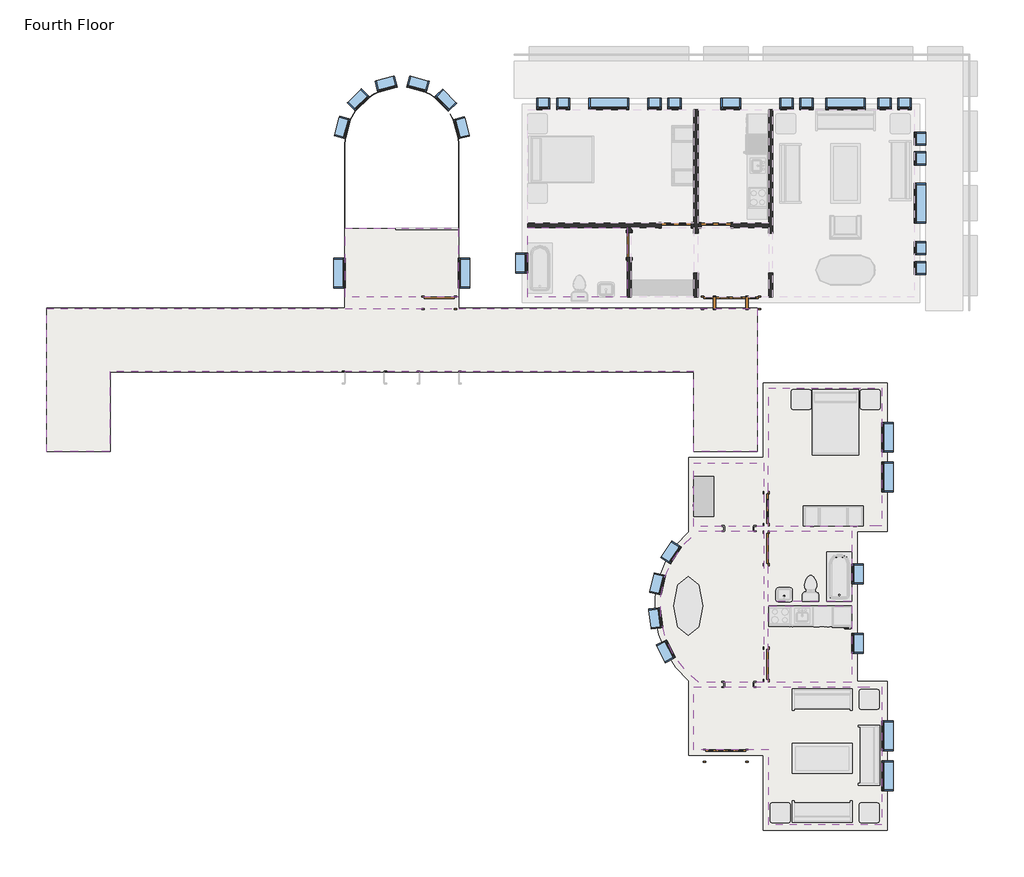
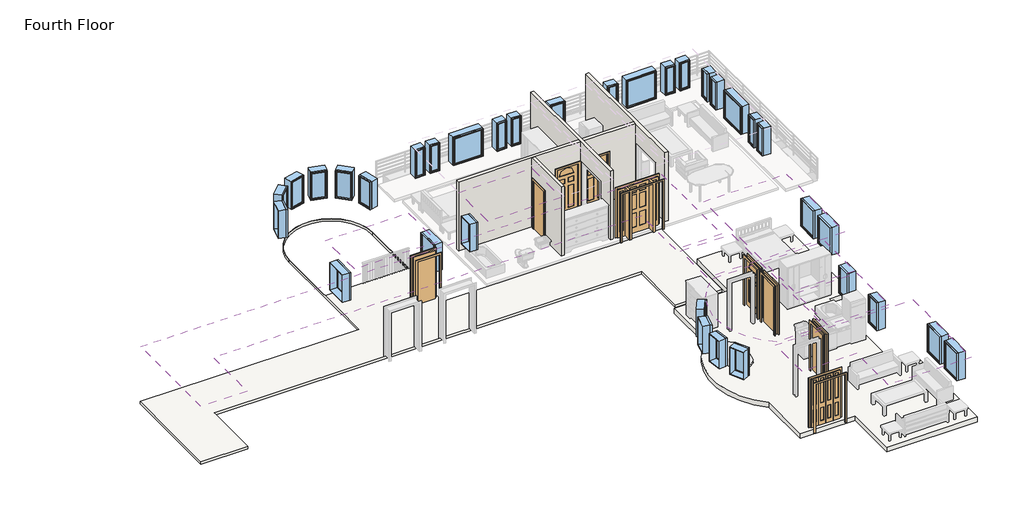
# One storey, part 1 of 2: 35 windows, 9 coverings, 9 doors, 5 walls, 2 slabs.
"""IFC4 building model written with IfcOpenShell, lengths in millimetres."""

from ifc_helpers import new_model, si_unit, point, frame, frame_2d, origin, place, context, project, spatial, polyline, circle_curve, trimmed, segment, composite_curve, outline, extrude, faceted_brep, transform, mapped, element, save
from components import m_bifold_4_panel_1220_x_2134mm_1a506c01, m_single_decorative_2_0915_x_2134mm_cc9a65e4, m_single_flush_0915_x_2134mm_ab9b6334, m_single_flush_0915_x_2134mm_08e0827a, door_829da954, door_2e3b4da2, door_4d6c7550, door_632be17d, door_dba5aa2e, window_da97879f, window_d61ef850, window_60baf983, window_15c49d37, window_6eb97611, m_fixed_0610_x_1220mm_2b91b687, m_fixed_0610_x_1220mm_9ad90eeb, m_fixed_0915_x_1220mm_ca90dcf7

model = new_model("IFC4")

# Units and contexts
model_context = context("Model", 3, world=origin())
ifc_project = project(units=[si_unit("LENGTHUNIT", "METRE", prefix="MILLI")], contexts=[model_context])

# Site, building, storey
site = spatial("IfcSite", under=ifc_project)
building = spatial("IfcBuilding", under=site)
storey = spatial("IfcBuildingStorey", under=building, Name="Fourth Floor", Elevation=9144.0)

# Coverings
placement = place(None, origin())
element("IfcCovering", 1, ObjectType="GWB on Mtl. Stud", at=placement, inside=storey, context=model_context, shape_type="SweptSolid", body=[
    extrude(outline(polyline([(-8169.2464563, 6660.0441867), (-8169.2464563, 4526.4441867), (-11217.2464563, 4526.4441867), (-11217.2464563, 6660.0441867), (-8169.2464563, 6660.0441867)])), frame((0.0, 0.0, 11734.8), z_axis=(0.0, 0.0, 1.0), x_axis=(1.0, 0.0, 0.0)), (0.0, 0.0, 1.0), 107.95),
])
element("IfcCovering", 2, ObjectType="GWB on Mtl. Stud", at=placement, inside=storey, context=model_context, shape_type="SweptSolid", body=[
    extrude(outline(polyline([(-13333.3839563, 4526.4441867), (-16790.9589563, 4526.4441867), (-16790.9589563, 6636.2316867), (-13333.3839563, 6636.2316867), (-13333.3839563, 4526.4441867)])), frame((0.0, 0.0, 11582.4), z_axis=(0.0, 0.0, 1.0), x_axis=(1.0, 0.0, 0.0)), (0.0, 0.0, 1.0), 107.95),
])
element("IfcCovering", 3, ObjectType="GWB on Mtl. Stud", at=placement, inside=storey, context=model_context, shape_type="SweptSolid", body=[
    extrude(outline(polyline([(-6122.9589563, -197.9558133), (-6122.9589563, 2240.4441867), (-24001.3839563, 2240.4441867), (-24001.3839563, -197.9558133), (-25934.9589563, -197.9558133), (-25934.9589563, 4174.0191867), (-4189.3839563, 4174.0191867), (-4189.3839563, -197.9558133), (-6122.9589563, -197.9558133)])), frame((0.0, 0.0, 11582.4), z_axis=(0.0, 0.0, 1.0), x_axis=(1.0, 0.0, 0.0)), (0.0, 0.0, 1.0), 107.95),
])
element("IfcCovering", 4, ObjectType="Plain", at=placement, inside=storey, context=model_context, shape_type="SweptSolid", body=[
    extrude(outline(polyline([(-3836.9589563, -374.1683133), (-3836.9589563, 1735.6191867), (-379.3839563, 1735.6191867), (-379.3839563, -2483.9558133), (-1117.5714563, -2483.9558133), (-1117.5714563, -2492.4183133), (-3845.4214563, -2492.4183133), (-3845.4214563, -374.1683133), (-3836.9589563, -374.1683133)])), frame((0.0, 0.0, 11735.0), z_axis=(0.0, 0.0, 1.0), x_axis=(1.0, 0.0, 0.0)), (0.0, 0.0, 1.0), 57.0),
])
element("IfcCovering", 5, ObjectType="Plain", at=placement, inside=storey, context=model_context, shape_type="SweptSolid", body=[
    extrude(outline(polyline([(-3845.4214563, -2627.9183133), (-1293.7839563, -2627.9183133), (-1293.7839563, -4793.7683133), (-3845.4214563, -4793.7683133), (-3845.4214563, -2627.9183133)])), frame((0.0, 0.0, 11735.0), z_axis=(0.0, 0.0, 1.0), x_axis=(1.0, 0.0, 0.0)), (0.0, 0.0, 1.0), 57.0),
])
element("IfcCovering", 6, ObjectType="Plain", at=placement, inside=storey, context=model_context, shape_type="SweptSolid", body=[
    extrude(outline(polyline([(-3845.4214563, -4929.2683133), (-1293.7839563, -4929.2683133), (-1293.7839563, -7264.4183133), (-3845.4214563, -7264.4183133), (-3845.4214563, -4929.2683133)])), frame((0.0, 0.0, 11735.0), z_axis=(0.0, 0.0, 1.0), x_axis=(1.0, 0.0, 0.0)), (0.0, 0.0, 1.0), 57.0),
])
element("IfcCovering", 7, ObjectType="Plain", at=placement, inside=storey, context=model_context, shape_type="SweptSolid", body=[
    extrude(outline(polyline([(-6122.9589563, -7399.9183133), (-1117.5714563, -7399.9183133), (-1117.5714563, -7408.3808133), (-379.3839563, -7408.3808133), (-379.3839563, -11627.9558133), (-3836.9589563, -11627.9558133), (-3836.9589563, -9341.9558133), (-6122.9589563, -9341.9558133), (-6122.9589563, -7399.9183133)])), frame((0.0, 0.0, 11735.0), z_axis=(0.0, 0.0, 1.0), x_axis=(1.0, 0.0, 0.0)), (0.0, 0.0, 1.0), 57.0),
])
element("IfcCovering", 8, ObjectType="Plain", at=placement, inside=storey, context=model_context, shape_type="SweptSolid", body=[
    extrude(outline(composite_curve([segment(trimmed(circle_curve(frame_2d((-4283.1089573, -4946.1683133)), 2871.7875), [point((-5978.0662968, -7264.4183133))], [point((-5978.0662968, -2627.9183133))], False, "CARTESIAN"), True, "CONTINUOUS"), segment(polyline([(-5978.0662968, -2627.9183133), (-3980.9214563, -2627.9183133), (-3980.9214563, -7264.4183133), (-5978.0662968, -7264.4183133)]), True, "CONTINUOUS")], self_intersect=False)), frame((0.0, 0.0, 11735.0), z_axis=(0.0, 0.0, 1.0), x_axis=(1.0, 0.0, 0.0)), (0.0, 0.0, 1.0), 57.0),
])
element("IfcCovering", 9, ObjectType="Plain", at=placement, inside=storey, context=model_context, shape_type="SweptSolid", body=[
    extrude(outline(polyline([(-6122.9589563, -2492.4183133), (-6122.9589563, -550.3808133), (-3980.9214563, -550.3808133), (-3980.9214563, -2492.4183133), (-6122.9589563, -2492.4183133)])), frame((0.0, 0.0, 11735.0), z_axis=(0.0, 0.0, 1.0), x_axis=(1.0, 0.0, 0.0)), (0.0, 0.0, 1.0), 57.0),
])

# Doors
m_bifold_4_panel_1220_x_2134mm_shape = m_bifold_4_panel_1220_x_2134mm_1a506c01(model_context)
element("IfcDoor", 10, ObjectType="M_Bifold-4 Panel : 1220 x 2134mm", at=placement, inside=storey, context=model_context, shape_type="MappedRepresentation", body=[
    mapped(m_bifold_4_panel_1220_x_2134mm_shape, transform((-5156.1714563, -9518.1683133, 9144.0), x_axis=(1.0, 0.0, 0.0), y_axis=(0.0, 1.0, 0.0), z_axis=(0.0, 0.0, 1.0))),
])
m_single_decorative_2_0915_x_2134mm_shape = m_single_decorative_2_0915_x_2134mm_cc9a65e4(model_context)
element("IfcDoor", 11, ObjectType="M_Single-Decorative 2 : 0915 x 2134mm", at=placement, inside=storey, context=model_context, shape_type="MappedRepresentation", body=[
    mapped(m_single_decorative_2_0915_x_2134mm_shape, transform((-3913.1714563, -1953.9183133, 9144.0), x_axis=(0.0, -1.0, 0.0), y_axis=(1.0, 0.0, 0.0), z_axis=(0.0, 0.0, 1.0))),
])
m_single_flush_0915_x_2134mm_shape = m_single_flush_0915_x_2134mm_ab9b6334(model_context)
element("IfcDoor", 12, ObjectType="M_Single-Flush : 0915 x 2134mm", at=placement, inside=storey, context=model_context, shape_type="MappedRepresentation", body=[
    mapped(m_single_flush_0915_x_2134mm_shape, transform((-3913.1714563, -3173.9183133, 9144.0), x_axis=(0.0, 1.0, 0.0), y_axis=(-1.0, 0.0, 0.0), z_axis=(0.0, 0.0, 1.0))),
])
m_single_flush_0915_x_2134mm_2_shape = m_single_flush_0915_x_2134mm_08e0827a(model_context)
element("IfcDoor", 13, ObjectType="M_Single-Flush : 0915 x 2134mm", at=placement, inside=storey, context=model_context, shape_type="MappedRepresentation", body=[
    mapped(m_single_flush_0915_x_2134mm_2_shape, transform((-3913.1714563, -6722.1683133, 9144.0), x_axis=(0.0, -1.0, 0.0), y_axis=(1.0, 0.0, 0.0), z_axis=(0.0, 0.0, 1.0))),
])
door_shape = door_829da954(model_context)
element("IfcDoor", 14, ObjectType="Single-Decorative 2 : 36\" x 84\"", at=placement, inside=storey, context=model_context, shape_type="MappedRepresentation", body=[
    mapped(door_shape, transform((-5449.8589563, 6723.5441867, 9144.0), x_axis=(-1.0, 0.0, 0.0), y_axis=(0.0, -1.0, 0.0), z_axis=(0.0, 0.0, 1.0))),
])
door_2_shape = door_2e3b4da2(model_context)
element("IfcDoor", 15, ObjectType="Single-Decorative 2 : 36\" x 84\"", at=placement, inside=storey, context=model_context, shape_type="MappedRepresentation", body=[
    mapped(door_2_shape, transform((-6669.0589563, 6723.5441867, 9144.0), x_axis=(1.0, 0.0, 0.0), y_axis=(0.0, 1.0, 0.0), z_axis=(0.0, 0.0, 1.0))),
])
door_3_shape = door_4d6c7550(model_context)
element("IfcDoor", 16, ObjectType="Single-Flush : 30\" x 84\"", at=placement, inside=storey, context=model_context, shape_type="MappedRepresentation", body=[
    mapped(door_3_shape, transform((-8105.7464563, 6113.9441867, 9144.0), x_axis=(0.0, 1.0, 0.0), y_axis=(-1.0, 0.0, 0.0), z_axis=(0.0, 0.0, 1.0))),
])
door_4_shape = door_632be17d(model_context)
element("IfcDoor", 17, ObjectType="Single-Flush : 36\" x 84\"", at=placement, inside=storey, context=model_context, shape_type="MappedRepresentation", body=[
    mapped(door_4_shape, transform((-13919.1714563, 4350.2316867, 9144.0), x_axis=(1.0, 0.0, 0.0), y_axis=(0.0, 1.0, 0.0), z_axis=(0.0, 0.0, 1.0))),
])
door_5_shape = door_dba5aa2e(model_context)
element("IfcDoor", 18, ObjectType="Single-Raised Panel with Sidelights : 36\" x 84\"", at=placement, inside=storey, context=model_context, shape_type="MappedRepresentation", body=[
    mapped(door_5_shape, transform((-4992.6589563, 4350.2316867, 9144.0), x_axis=(-1.0, 0.0, 0.0), y_axis=(0.0, -1.0, 0.0), z_axis=(0.0, 0.0, 1.0))),
])

# Slabs
element("IfcSlab", 19, ObjectType="160mm Concrete With 50mm Metal Deck", at=placement, inside=storey, context=model_context, shape_type="SweptSolid", body=[
    extrude(outline(composite_curve([segment(polyline([(-214.2839563, 1900.7191867), (-214.2839563, -2649.0558133), (-1128.6839563, -2649.0558133), (-1128.6839563, -7243.2808133), (-214.2839563, -7243.2808133), (-214.2839563, -11793.0558133), (-4002.0589563, -11793.0558133), (-4002.0589563, -9507.0558133), (-6288.0589563, -9507.0558133), (-6288.0589563, -7227.1464344)]), True, "CONTINUOUS"), segment(trimmed(circle_curve(frame_2d((-4283.1089573, -4946.1683133)), 3036.8875), [point((-6288.0589563, -7227.1464344))], [point((-6288.0589563, -2665.1901922))], False, "CARTESIAN"), True, "CONTINUOUS"), segment(polyline([(-6288.0589563, -2665.1901922), (-6288.0589563, -385.2808133), (-4002.0589563, -385.2808133), (-4002.0589563, 1900.7191867), (-214.2839563, 1900.7191867)]), True, "CONTINUOUS")], self_intersect=False)), frame((0.0, 0.0, 8934.0), z_axis=(0.0, 0.0, 1.0), x_axis=(1.0, 0.0, 0.0)), (0.0, 0.0, 1.0), 210.0),
])
element("IfcSlab", 20, ObjectType="LW Concrete on Metal Deck", at=placement, inside=storey, context=model_context, shape_type="SweptSolid", body=[
    extrude(outline(composite_curve([segment(polyline([(-13320.6839563, 9227.0316867), (-13320.6839563, 4186.7191867), (-4189.3839563, 4186.7191867), (-4189.3839563, -197.9558133), (-6135.6589563, -197.9558133), (-6135.6589563, 2227.7441867), (-23988.6839563, 2227.7441867), (-23988.6839563, -197.9558133), (-25934.9589563, -197.9558133), (-25934.9589563, 4186.7191867), (-16803.6589563, 4186.7191867), (-16803.6589563, 9227.0316867)]), True, "CONTINUOUS"), segment(trimmed(circle_curve(frame_2d((-15062.1714563, 9227.0316867)), 1741.4875), [point((-16803.6589563, 9227.0316867))], [point((-13320.6839563, 9227.0316867))], False, "CARTESIAN"), True, "CONTINUOUS")], self_intersect=False), holes=[composite_curve([segment(polyline([(-16790.9589563, 6636.2316867), (-13333.3839563, 6636.2316867), (-13333.3839563, 9227.0316867)]), True, "CONTINUOUS"), segment(trimmed(circle_curve(frame_2d((-15062.1714563, 9227.0316867)), 1728.7875), [point((-13333.3839563, 9227.0316867))], [point((-16790.9589563, 9227.0316867))], True, "CARTESIAN"), True, "CONTINUOUS"), segment(polyline([(-16790.9589563, 9227.0316867), (-16790.9589563, 6636.2316867)]), True, "CONTINUOUS")], self_intersect=False)]), frame((0.0, 0.0, 9039.225), z_axis=(0.0, 0.0, 1.0), x_axis=(1.0, 0.0, 0.0)), (0.0, 0.0, 1.0), 104.775),
])

# Walls
element("IfcWall", 21, ObjectType="Interior - 5\" Partition (2-hr)", at=placement, inside=storey, context=model_context, shape_type="Brep", body=[
    faceted_brep([(-3709.9589563, 10270.0191867, 9144.0), (-3709.9589563, 6483.8316867, 9144.0), (-3836.9589563, 6483.8316867, 9144.0), (-3836.9589563, 6660.0441867, 9144.0), (-3836.9589563, 6787.0441867, 9144.0), (-3836.9589563, 10270.0191867, 9144.0), (-3709.9589563, 5264.6316867, 9144.0), (-3709.9589563, 4526.4441867, 9144.0), (-3836.9589563, 4526.4441867, 9144.0), (-3836.9589563, 5264.6316867, 9144.0), (-3836.9589563, 10270.0191867, 12192.0), (-3836.9589563, 6787.0441867, 12192.0), (-3836.9589563, 6660.0441867, 12192.0), (-3836.9589563, 4526.4441867, 12192.0), (-3709.9589563, 4526.4441867, 12192.0), (-3709.9589563, 10270.0191867, 12192.0), (-3836.9589563, 6483.8316867, 11277.6), (-3836.9589563, 5264.6316867, 11277.6), (-3709.9589563, 6483.8316867, 11277.6), (-3709.9589563, 5264.6316867, 11277.6)], [[[0, 1, 2, 3, 4, 5]], [[6, 7, 8, 9]], [[10, 11, 12, 13, 14, 15]], [[5, 4, 3, 2, 16, 17, 9, 8, 13, 12, 11, 10]], [[18, 1, 0, 15, 14, 7, 6, 19]], [[5, 10, 15, 0]], [[13, 8, 7, 14]], [[9, 17, 19, 6]], [[16, 2, 1, 18]], [[17, 16, 18, 19]]]),
])
element("IfcWall", 22, ObjectType="Interior - 5\" Partition (2-hr)", at=placement, inside=storey, context=model_context, shape_type="Brep", body=[
    faceted_brep([(-6122.9589563, 4526.4441867, 9144.0), (-6122.9589563, 5264.6316867, 9144.0), (-5995.9589563, 5264.6316867, 9144.0), (-5995.9589563, 4526.4441867, 9144.0), (-6122.9589563, 6483.8316867, 9144.0), (-6122.9589563, 6660.0441867, 9144.0), (-6122.9589563, 6787.0441867, 9144.0), (-6122.9589563, 10270.0191867, 9144.0), (-5995.9589563, 10270.0191867, 9144.0), (-5995.9589563, 6787.0441867, 9144.0), (-5995.9589563, 6660.0441867, 9144.0), (-5995.9589563, 6483.8316867, 9144.0), (-6122.9589563, 10270.0191867, 12192.0), (-6122.9589563, 6787.0441867, 12192.0), (-6122.9589563, 6660.0441867, 12192.0), (-6122.9589563, 4526.4441867, 12192.0), (-5995.9589563, 4526.4441867, 12192.0), (-5995.9589563, 6660.0441867, 12192.0), (-5995.9589563, 6787.0441867, 12192.0), (-5995.9589563, 10270.0191867, 12192.0), (-6122.9589563, 5264.6316867, 11277.6), (-6122.9589563, 6483.8316867, 11277.6), (-5995.9589563, 5264.6316867, 11277.6), (-5995.9589563, 6483.8316867, 11277.6)], [[[0, 1, 2, 3]], [[4, 5, 6, 7, 8, 9, 10, 11]], [[12, 13, 14, 15, 16, 17, 18, 19]], [[20, 1, 0, 15, 14, 13, 12, 7, 6, 5, 4, 21]], [[3, 2, 22, 23, 11, 10, 9, 8, 19, 18, 17, 16]], [[7, 12, 19, 8]], [[15, 0, 3, 16]], [[11, 23, 21, 4]], [[22, 2, 1, 20]], [[23, 22, 20, 21]]]),
])
element("IfcWall", 23, ObjectType="Interior - 5\" Partition (2-hr)", at=placement, inside=storey, context=model_context, shape_type="Brep", body=[
    faceted_brep([(-6122.9589563, 6660.0441867, 9144.0), (-6211.8589563, 6660.0441867, 9144.0), (-6211.8589563, 6787.0441867, 9144.0), (-6122.9589563, 6787.0441867, 9144.0), (-7126.2589563, 6660.0441867, 9144.0), (-8042.2464563, 6660.0441867, 9144.0), (-8169.2464563, 6660.0441867, 9144.0), (-11217.2464563, 6660.0441867, 9144.0), (-11217.2464563, 6787.0441867, 9144.0), (-7126.2589563, 6787.0441867, 9144.0), (-11217.2464563, 6660.0441867, 12192.0), (-8169.2464563, 6660.0441867, 12192.0), (-8042.2464563, 6660.0441867, 12192.0), (-6122.9589563, 6660.0441867, 12192.0), (-6122.9589563, 6787.0441867, 12192.0), (-11217.2464563, 6787.0441867, 12192.0), (-6211.8589563, 6660.0441867, 11277.6), (-7126.2589563, 6660.0441867, 11277.6), (-6211.8589563, 6787.0441867, 11277.6), (-7126.2589563, 6787.0441867, 11277.6)], [[[0, 1, 2, 3]], [[4, 5, 6, 7, 8, 9]], [[10, 11, 12, 13, 14, 15]], [[16, 1, 0, 13, 12, 11, 10, 7, 6, 5, 4, 17]], [[3, 2, 18, 19, 9, 8, 15, 14]], [[13, 0, 3, 14]], [[7, 10, 15, 8]], [[18, 2, 1, 16]], [[19, 18, 16, 17]], [[9, 19, 17, 4]]]),
])
element("IfcWall", 24, ObjectType="Interior - 5\" Partition (2-hr)", at=placement, inside=storey, context=model_context, shape_type="SweptSolid", body=[
    extrude(outline(polyline([(6660.0441867, 9144.0), (6494.9441867, 9144.0), (6494.9441867, 11277.6), (5732.9441867, 11277.6), (5732.9441867, 9144.0), (4526.4441867, 9144.0), (4526.4441867, 12192.0), (6660.0441867, 12192.0), (6660.0441867, 9144.0)])), frame((-8169.2464563, 0.0, 0.0), z_axis=(1.0, 0.0, 0.0), x_axis=(0.0, 1.0, 0.0)), (0.0, 0.0, 1.0), 127.0),
])
element("IfcWall", 25, ObjectType="Interior - 5\" Partition (2-hr)", at=placement, inside=storey, context=model_context, shape_type="SweptSolid", body=[
    extrude(outline(polyline([(9144.0, -5995.9589563), (9144.0, -5907.0589563), (11277.6, -5907.0589563), (11277.6, -4992.6589563), (9144.0, -4992.6589563), (9144.0, -3836.9589563), (12192.0, -3836.9589563), (12192.0, -5995.9589563), (9144.0, -5995.9589563)])), frame((0.0, 6660.0441867, 0.0), z_axis=(0.0, 1.0, 0.0), x_axis=(0.0, 0.0, 1.0)), (0.0, 0.0, 1.0), 127.0),
])

# Windows
window_shape = window_da97879f(model_context)
element("IfcWindow", 26, ObjectType="Fixed : 16\" x 48\"", at=placement, inside=storey, context=model_context, shape_type="MappedRepresentation", body=[
    mapped(window_shape, transform((-10771.1589563, 10446.2316867, 9144.0), x_axis=(-1.0, 0.0, 0.0), y_axis=(0.0, -1.0, 0.0), z_axis=(0.0, 0.0, 1.0))),
])
element("IfcWindow", 27, ObjectType="Fixed : 16\" x 48\"", at=placement, inside=storey, context=model_context, shape_type="MappedRepresentation", body=[
    mapped(window_shape, transform((-10161.5589563, 10446.2316867, 9144.0), x_axis=(-1.0, 0.0, 0.0), y_axis=(0.0, -1.0, 0.0), z_axis=(0.0, 0.0, 1.0))),
])
element("IfcWindow", 28, ObjectType="Fixed : 16\" x 48\"", at=placement, inside=storey, context=model_context, shape_type="MappedRepresentation", body=[
    mapped(window_shape, transform((-3328.9589563, 10446.2316867, 9144.0), x_axis=(-1.0, 0.0, 0.0), y_axis=(0.0, -1.0, 0.0), z_axis=(0.0, 0.0, 1.0))),
])
element("IfcWindow", 29, ObjectType="Fixed : 16\" x 48\"", at=placement, inside=storey, context=model_context, shape_type="MappedRepresentation", body=[
    mapped(window_shape, transform((-2719.3589563, 10446.2316867, 9144.0), x_axis=(-1.0, 0.0, 0.0), y_axis=(0.0, -1.0, 0.0), z_axis=(0.0, 0.0, 1.0))),
])
element("IfcWindow", 30, ObjectType="Fixed : 16\" x 48\"", at=placement, inside=storey, context=model_context, shape_type="MappedRepresentation", body=[
    mapped(window_shape, transform((798.5410437, 9417.5316867, 9144.0), x_axis=(0.0, 1.0, 0.0), y_axis=(-1.0, 0.0, 0.0), z_axis=(0.0, 0.0, 1.0))),
])
element("IfcWindow", 31, ObjectType="Fixed : 16\" x 48\"", at=placement, inside=storey, context=model_context, shape_type="MappedRepresentation", body=[
    mapped(window_shape, transform((798.5410437, 8807.9316867, 9144.0), x_axis=(0.0, 1.0, 0.0), y_axis=(-1.0, 0.0, 0.0), z_axis=(0.0, 0.0, 1.0))),
])
window_2_shape = window_d61ef850(model_context)
element("IfcWindow", 32, ObjectType="Fixed : 16\" x 48\"", at=placement, inside=storey, context=model_context, shape_type="MappedRepresentation", body=[
    mapped(window_2_shape, transform((-6681.7589563, 10446.2316867, 9144.0), x_axis=(1.0, 0.0, 0.0), y_axis=(0.0, 1.0, 0.0), z_axis=(0.0, 0.0, 1.0))),
])
element("IfcWindow", 33, ObjectType="Fixed : 16\" x 48\"", at=placement, inside=storey, context=model_context, shape_type="MappedRepresentation", body=[
    mapped(window_2_shape, transform((-7291.3589563, 10446.2316867, 9144.0), x_axis=(1.0, 0.0, 0.0), y_axis=(0.0, 1.0, 0.0), z_axis=(0.0, 0.0, 1.0))),
])
element("IfcWindow", 34, ObjectType="Fixed : 16\" x 48\"", at=placement, inside=storey, context=model_context, shape_type="MappedRepresentation", body=[
    mapped(window_2_shape, transform((354.0410437, 10446.2316867, 9144.0), x_axis=(1.0, 0.0, 0.0), y_axis=(0.0, 1.0, 0.0), z_axis=(0.0, 0.0, 1.0))),
])
element("IfcWindow", 35, ObjectType="Fixed : 16\" x 48\"", at=placement, inside=storey, context=model_context, shape_type="MappedRepresentation", body=[
    mapped(window_2_shape, transform((-255.5589563, 10446.2316867, 9144.0), x_axis=(1.0, 0.0, 0.0), y_axis=(0.0, 1.0, 0.0), z_axis=(0.0, 0.0, 1.0))),
])
element("IfcWindow", 36, ObjectType="Fixed : 16\" x 48\"", at=placement, inside=storey, context=model_context, shape_type="MappedRepresentation", body=[
    mapped(window_2_shape, transform((798.5410437, 5378.9316867, 9144.0), x_axis=(0.0, -1.0, 0.0), y_axis=(1.0, 0.0, 0.0), z_axis=(0.0, 0.0, 1.0))),
])
element("IfcWindow", 37, ObjectType="Fixed : 16\" x 48\"", at=placement, inside=storey, context=model_context, shape_type="MappedRepresentation", body=[
    mapped(window_2_shape, transform((798.5410437, 5988.5316867, 9144.0), x_axis=(0.0, -1.0, 0.0), y_axis=(1.0, 0.0, 0.0), z_axis=(0.0, 0.0, 1.0))),
])
window_3_shape = window_60baf983(model_context)
element("IfcWindow", 38, ObjectType="Fixed : 24\" x 48\"", at=placement, inside=storey, context=model_context, shape_type="MappedRepresentation", body=[
    mapped(window_3_shape, transform((-5030.7589563, 10446.2316867, 9144.0), x_axis=(-1.0, 0.0, 0.0), y_axis=(0.0, -1.0, 0.0), z_axis=(0.0, 0.0, 1.0))),
])
element("IfcWindow", 39, ObjectType="Fixed : 24\" x 48\"", at=placement, inside=storey, context=model_context, shape_type="MappedRepresentation", body=[
    mapped(window_3_shape, transform((-11393.4589563, 5531.3316867, 9144.0), x_axis=(0.0, -1.0, 0.0), y_axis=(1.0, 0.0, 0.0), z_axis=(0.0, 0.0, 1.0))),
])
element("IfcWindow", 40, ObjectType="Fixed : 24\" x 48\"", at=placement, inside=storey, context=model_context, shape_type="MappedRepresentation", body=[
    mapped(window_3_shape, transform((-16889.064163, 9683.0417496, 9144.0), x_axis=(-0.26176149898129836, -0.9651325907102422, 0.0), y_axis=(0.9651325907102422, -0.26176149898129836, 0.0), z_axis=(0.0, 0.0, 1.0))),
])
element("IfcWindow", 41, ObjectType="Fixed : 24\" x 48\"", at=placement, inside=storey, context=model_context, shape_type="MappedRepresentation", body=[
    mapped(window_3_shape, transform((-16416.3019188, 10535.3943388, 9144.0), x_axis=(-0.7092584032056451, -0.7049485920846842, 0.0), y_axis=(0.7049485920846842, -0.7092584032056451, 0.0), z_axis=(0.0, 0.0, 1.0))),
])
element("IfcWindow", 42, ObjectType="Fixed : 24\" x 48\"", at=placement, inside=storey, context=model_context, shape_type="MappedRepresentation", body=[
    mapped(window_3_shape, transform((-15580.7015108, 11037.1722121, 9144.0), x_axis=(-0.9667100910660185, -0.25587418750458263, 0.0), y_axis=(0.25587418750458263, -0.9667100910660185, 0.0), z_axis=(0.0, 0.0, 1.0))),
])
element("IfcWindow", 43, ObjectType="Fixed : 24\" x 48\"", at=placement, inside=storey, context=model_context, shape_type="MappedRepresentation", body=[
    mapped(window_3_shape, transform((-14606.1613934, 11053.9243933, 9144.0), x_axis=(-0.9651325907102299, 0.2617614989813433, 0.0), y_axis=(-0.2617614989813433, -0.9651325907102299, 0.0), z_axis=(0.0, 0.0, 1.0))),
])
element("IfcWindow", 44, ObjectType="Fixed : 24\" x 48\"", at=placement, inside=storey, context=model_context, shape_type="MappedRepresentation", body=[
    mapped(window_3_shape, transform((-13753.8088042, 10581.1621492, 9144.0), x_axis=(-0.7049485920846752, 0.7092584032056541, 0.0), y_axis=(-0.7092584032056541, -0.7049485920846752, 0.0), z_axis=(0.0, 0.0, 1.0))),
])
element("IfcWindow", 45, ObjectType="Fixed : 24\" x 48\"", at=placement, inside=storey, context=model_context, shape_type="MappedRepresentation", body=[
    mapped(window_3_shape, transform((-13252.0309309, 9745.5617412, 9144.0), x_axis=(-0.25587418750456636, 0.9667100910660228, 0.0), y_axis=(-0.9667100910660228, -0.25587418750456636, 0.0), z_axis=(0.0, 0.0, 1.0))),
])
window_4_shape = window_15c49d37(model_context)
element("IfcWindow", 46, ObjectType="Fixed : 36\" x 48\"", at=placement, inside=storey, context=model_context, shape_type="MappedRepresentation", body=[
    mapped(window_4_shape, transform((-16967.1714563, 5226.5316867, 9144.0), x_axis=(0.0, -1.0, 0.0), y_axis=(1.0, 0.0, 0.0), z_axis=(0.0, 0.0, 1.0))),
])
element("IfcWindow", 47, ObjectType="Fixed : 36\" x 48\"", at=placement, inside=storey, context=model_context, shape_type="MappedRepresentation", body=[
    mapped(window_4_shape, transform((-13157.1714563, 5302.7316867, 9144.0), x_axis=(0.0, 1.0, 0.0), y_axis=(-1.0, 0.0, 0.0), z_axis=(0.0, 0.0, 1.0))),
])
window_5_shape = window_6eb97611(model_context)
element("IfcWindow", 48, ObjectType="Fixed : 48\" x 48\"", at=placement, inside=storey, context=model_context, shape_type="MappedRepresentation", body=[
    mapped(window_5_shape, transform((-8764.5589563, 10446.2316867, 9144.0), x_axis=(-1.0, 0.0, 0.0), y_axis=(0.0, -1.0, 0.0), z_axis=(0.0, 0.0, 1.0))),
])
element("IfcWindow", 49, ObjectType="Fixed : 48\" x 48\"", at=placement, inside=storey, context=model_context, shape_type="MappedRepresentation", body=[
    mapped(window_5_shape, transform((-1525.5589563, 10446.2316867, 9144.0), x_axis=(-1.0, 0.0, 0.0), y_axis=(0.0, -1.0, 0.0), z_axis=(0.0, 0.0, 1.0))),
])
element("IfcWindow", 50, ObjectType="Fixed : 48\" x 48\"", at=placement, inside=storey, context=model_context, shape_type="MappedRepresentation", body=[
    mapped(window_5_shape, transform((798.5410437, 7436.3316867, 9144.0), x_axis=(0.0, 1.0, 0.0), y_axis=(-1.0, 0.0, 0.0), z_axis=(0.0, 0.0, 1.0))),
])
m_fixed_0610_x_1220mm_shape = m_fixed_0610_x_1220mm_2b91b687(model_context)
element("IfcWindow", 51, ObjectType="M_Fixed : 0610 x 1220mm", at=placement, inside=storey, context=model_context, shape_type="MappedRepresentation", body=[
    mapped(m_fixed_0610_x_1220mm_shape, transform((-1104.5714563, -3947.1183133, 9144.0), x_axis=(0.0, 1.0, 0.0), y_axis=(-1.0, 0.0, 0.0), z_axis=(0.0, 0.0, 1.0))),
])
element("IfcWindow", 52, ObjectType="M_Fixed : 0610 x 1220mm", at=placement, inside=storey, context=model_context, shape_type="MappedRepresentation", body=[
    mapped(m_fixed_0610_x_1220mm_shape, transform((-1104.5714563, -6080.7183133, 9144.0), x_axis=(0.0, 1.0, 0.0), y_axis=(-1.0, 0.0, 0.0), z_axis=(0.0, 0.0, 1.0))),
])
element("IfcWindow", 53, ObjectType="M_Fixed : 0610 x 1220mm", at=placement, inside=storey, context=model_context, shape_type="MappedRepresentation", body=[
    mapped(m_fixed_0610_x_1220mm_shape, transform((-6832.8777071, -3282.0683061, 9144.0), x_axis=(-0.5465459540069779, -0.8374291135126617, 0.0), y_axis=(0.8374291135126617, -0.5465459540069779, 0.0), z_axis=(0.0, 0.0, 1.0))),
])
element("IfcWindow", 54, ObjectType="M_Fixed : 0610 x 1220mm", at=placement, inside=storey, context=model_context, shape_type="MappedRepresentation", body=[
    mapped(m_fixed_0610_x_1220mm_shape, transform((-7248.2635591, -4254.4980895, 9144.0), x_axis=(-0.22716757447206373, -0.9738556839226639, 0.0), y_axis=(0.9738556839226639, -0.22716757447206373, 0.0), z_axis=(0.0, 0.0, 1.0))),
])
m_fixed_0610_x_1220mm_2_shape = m_fixed_0610_x_1220mm_9ad90eeb(model_context)
element("IfcWindow", 55, ObjectType="M_Fixed : 0610 x 1220mm", at=placement, inside=storey, context=model_context, shape_type="MappedRepresentation", body=[
    mapped(m_fixed_0610_x_1220mm_2_shape, transform((-6999.1462129, -6322.2828208, 9144.0), x_axis=(-0.4519619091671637, 0.8920372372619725, 0.0), y_axis=(-0.8920372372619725, -0.4519619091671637, 0.0), z_axis=(0.0, 0.0, 1.0))),
])
element("IfcWindow", 56, ObjectType="M_Fixed : 0610 x 1220mm", at=placement, inside=storey, context=model_context, shape_type="MappedRepresentation", body=[
    mapped(m_fixed_0610_x_1220mm_2_shape, transform((-7306.0080052, -5310.3535099, 9144.0), x_axis=(-0.11961056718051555, 0.9928208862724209, 0.0), y_axis=(-0.9928208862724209, -0.11961056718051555, 0.0), z_axis=(0.0, 0.0, 1.0))),
])
m_fixed_0915_x_1220mm_shape = m_fixed_0915_x_1220mm_ca90dcf7(model_context)
element("IfcWindow", 57, ObjectType="M_Fixed : 0915 x 1220mm", at=placement, inside=storey, context=model_context, shape_type="MappedRepresentation", body=[
    mapped(m_fixed_0915_x_1220mm_shape, transform((-190.1714563, 235.4316867, 9144.0), x_axis=(0.0, 1.0, 0.0), y_axis=(-1.0, 0.0, 0.0), z_axis=(0.0, 0.0, 1.0))),
])
element("IfcWindow", 58, ObjectType="M_Fixed : 0915 x 1220mm", at=placement, inside=storey, context=model_context, shape_type="MappedRepresentation", body=[
    mapped(m_fixed_0915_x_1220mm_shape, transform((-190.1714563, -983.7683133, 9144.0), x_axis=(0.0, 1.0, 0.0), y_axis=(-1.0, 0.0, 0.0), z_axis=(0.0, 0.0, 1.0))),
])
element("IfcWindow", 59, ObjectType="M_Fixed : 0915 x 1220mm", at=placement, inside=storey, context=model_context, shape_type="MappedRepresentation", body=[
    mapped(m_fixed_0915_x_1220mm_shape, transform((-190.1714563, -8908.5683133, 9144.0), x_axis=(0.0, 1.0, 0.0), y_axis=(-1.0, 0.0, 0.0), z_axis=(0.0, 0.0, 1.0))),
])
element("IfcWindow", 60, ObjectType="M_Fixed : 0915 x 1220mm", at=placement, inside=storey, context=model_context, shape_type="MappedRepresentation", body=[
    mapped(m_fixed_0915_x_1220mm_shape, transform((-190.1714563, -10127.7683133, 9144.0), x_axis=(0.0, 1.0, 0.0), y_axis=(-1.0, 0.0, 0.0), z_axis=(0.0, 0.0, 1.0))),
])

save(model, "model.ifc")
